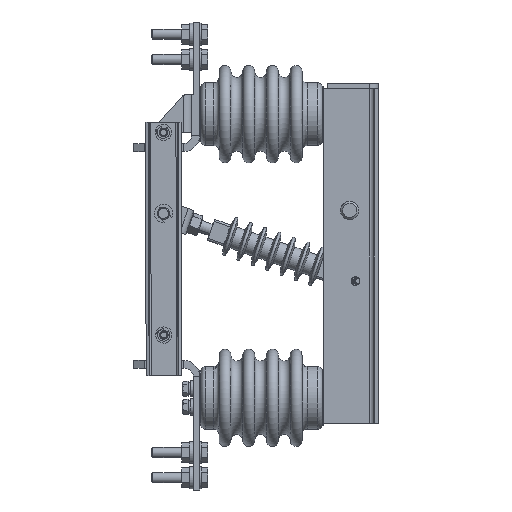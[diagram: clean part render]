
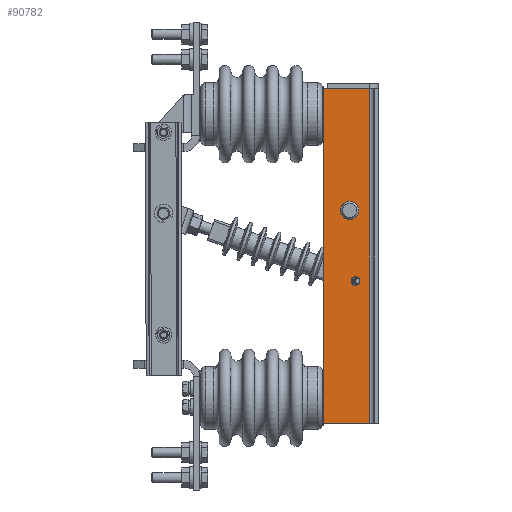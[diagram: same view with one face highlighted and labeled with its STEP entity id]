
A CAD part, left-side view. The second image highlights one B-rep face of the part: STEP entity #90782.
In plain terms, the highlighted planar face has unit normal (-1, 0, 0).
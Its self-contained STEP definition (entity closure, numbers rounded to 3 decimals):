
#1821 = DIRECTION ( 'NONE',  ( 0., 0., 1. ) ) ;
#1831 = EDGE_CURVE ( 'NONE', #89165, #96721, #90539, .T. ) ;
#3529 = ORIENTED_EDGE ( 'NONE', *, *, #29579, .F. ) ;
#4273 = EDGE_CURVE ( 'NONE', #40529, #89165, #4654, .T. ) ;
#4654 = LINE ( 'NONE', #106425, #25518 ) ;
#7028 = CARTESIAN_POINT ( 'NONE',  ( -238.404, 53.996, -159.998 ) ) ;
#9664 = AXIS2_PLACEMENT_3D ( 'NONE', #95774, #42382, #104815 ) ;
#10675 = VERTEX_POINT ( 'NONE', #36749 ) ;
#13237 = FACE_BOUND ( 'NONE', #56552, .T. ) ;
#16392 = DIRECTION ( 'NONE',  ( 1., 0., 0. ) ) ;
#17030 = DIRECTION ( 'NONE',  ( 0., 0., 1. ) ) ;
#25518 = VECTOR ( 'NONE', #106081, 1000. ) ;
#26822 = CIRCLE ( 'NONE', #77922, 9. ) ;
#29493 = LINE ( 'NONE', #114839, #53086 ) ;
#29579 = EDGE_CURVE ( 'NONE', #40529, #35620, #66355, .T. ) ;
#30531 = CARTESIAN_POINT ( 'NONE',  ( -238.404, 7.996, -159.998 ) ) ;
#30919 = EDGE_CURVE ( 'NONE', #81829, #81829, #26822, .T. ) ;
#35620 = VERTEX_POINT ( 'NONE', #7028 ) ;
#35738 = EDGE_LOOP ( 'NONE', ( #3529, #75859, #53887, #70896 ) ) ;
#36749 = CARTESIAN_POINT ( 'NONE',  ( -238.404, 22.396, -15.623 ) ) ;
#36845 = FACE_OUTER_BOUND ( 'NONE', #35738, .T. ) ;
#39639 = FACE_BOUND ( 'NONE', #67750, .T. ) ;
#40529 = VERTEX_POINT ( 'NONE', #30531 ) ;
#42382 = DIRECTION ( 'NONE',  ( -1., 0., 0. ) ) ;
#43135 = VECTOR ( 'NONE', #100273, 1000. ) ;
#45457 = VECTOR ( 'NONE', #61584, 1000. ) ;
#46498 = CIRCLE ( 'NONE', #81163, 4.15 ) ;
#48163 = EDGE_CURVE ( 'NONE', #10675, #10675, #46498, .T. ) ;
#49374 = PLANE ( 'NONE',  #9664 ) ;
#52649 = CARTESIAN_POINT ( 'NONE',  ( -238.404, 49.996, -159.998 ) ) ;
#53086 = VECTOR ( 'NONE', #17030, 1000. ) ;
#53887 = ORIENTED_EDGE ( 'NONE', *, *, #1831, .T. ) ;
#55026 = DIRECTION ( 'NONE',  ( -1., 0., 0. ) ) ;
#56552 = EDGE_LOOP ( 'NONE', ( #115242 ) ) ;
#61584 = DIRECTION ( 'NONE',  ( 0., 1., 0. ) ) ;
#66355 = LINE ( 'NONE', #52649, #45457 ) ;
#67750 = EDGE_LOOP ( 'NONE', ( #108037 ) ) ;
#69704 = CARTESIAN_POINT ( 'NONE',  ( -238.404, 22.396, -19.773 ) ) ;
#70896 = ORIENTED_EDGE ( 'NONE', *, *, #72523, .F. ) ;
#72523 = EDGE_CURVE ( 'NONE', #35620, #96721, #29493, .T. ) ;
#75859 = ORIENTED_EDGE ( 'NONE', *, *, #4273, .T. ) ;
#77922 = AXIS2_PLACEMENT_3D ( 'NONE', #108508, #55026, #1821 ) ;
#78700 = DIRECTION ( 'NONE',  ( 0., 0., 1. ) ) ;
#80785 = CARTESIAN_POINT ( 'NONE',  ( -238.404, 7.996, 170.002 ) ) ;
#81163 = AXIS2_PLACEMENT_3D ( 'NONE', #69704, #16392, #78700 ) ;
#81829 = VERTEX_POINT ( 'NONE', #114414 ) ;
#89165 = VERTEX_POINT ( 'NONE', #80785 ) ;
#90539 = LINE ( 'NONE', #97283, #43135 ) ;
#90782 = ADVANCED_FACE ( 'NONE', ( #36845, #39639, #13237 ), #49374, .T. ) ;
#94182 = CARTESIAN_POINT ( 'NONE',  ( -238.404, 53.996, 170.002 ) ) ;
#95774 = CARTESIAN_POINT ( 'NONE',  ( -238.404, 49.996, -159.998 ) ) ;
#96721 = VERTEX_POINT ( 'NONE', #94182 ) ;
#97283 = CARTESIAN_POINT ( 'NONE',  ( -238.404, 49.996, 170.002 ) ) ;
#100273 = DIRECTION ( 'NONE',  ( 0., 1., 0. ) ) ;
#104815 = DIRECTION ( 'NONE',  ( 0., 1., 0. ) ) ;
#106081 = DIRECTION ( 'NONE',  ( 0., 0., 1. ) ) ;
#106425 = CARTESIAN_POINT ( 'NONE',  ( -238.404, 7.996, -159.998 ) ) ;
#108037 = ORIENTED_EDGE ( 'NONE', *, *, #30919, .F. ) ;
#108508 = CARTESIAN_POINT ( 'NONE',  ( -238.404, 27.996, 50.002 ) ) ;
#114414 = CARTESIAN_POINT ( 'NONE',  ( -238.404, 27.996, 59.002 ) ) ;
#114839 = CARTESIAN_POINT ( 'NONE',  ( -238.404, 53.996, -159.998 ) ) ;
#115242 = ORIENTED_EDGE ( 'NONE', *, *, #48163, .T. ) ;
